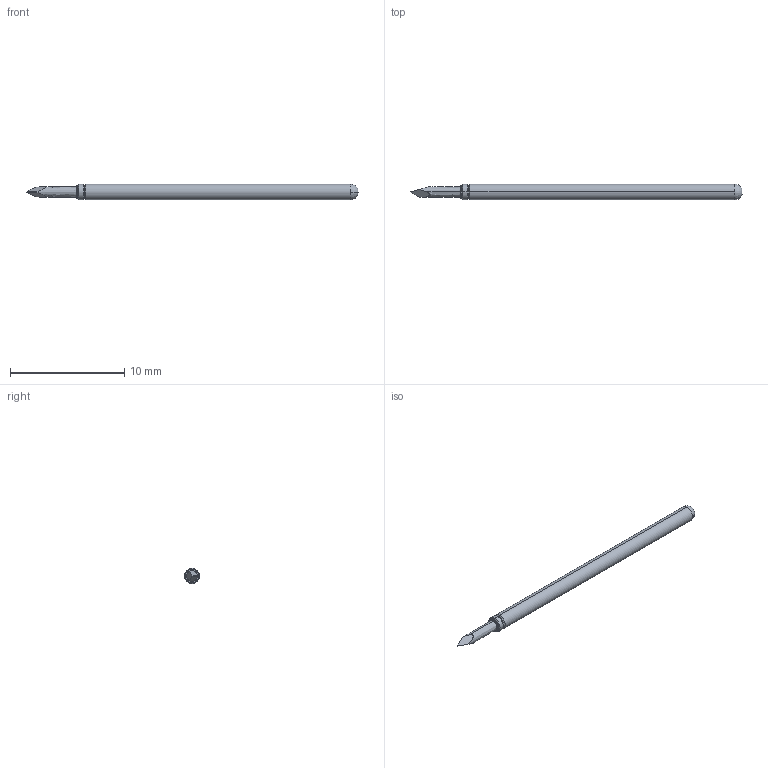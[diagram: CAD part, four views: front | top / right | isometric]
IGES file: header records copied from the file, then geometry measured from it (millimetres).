
Start section: SolidWorks IGES file using analytic representation for surfaces
Global section: file name: Z:\probe solid model mockups\Solidworks models\LTP-25\LTP-25T36 RECD.IGS; native system: SolidWorks 2006 by SolidWorks Corporation; preprocessor: SolidWorks 2006 by SolidWorks Corporation; author: tsakatani; date: 071214.143448; units: inch
Bounding box: 29.08 x 1.37 x 1.37 mm (x, y, z)
Surface area: 118.4 mm2 (no closed solid volume)
Topology: 0 solids, 0 shells, 21 faces, 166 edges, 166 vertices
Faces by surface type: revolution 12, bspline 9
